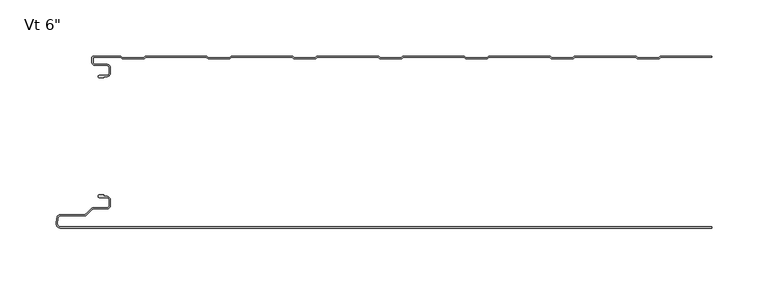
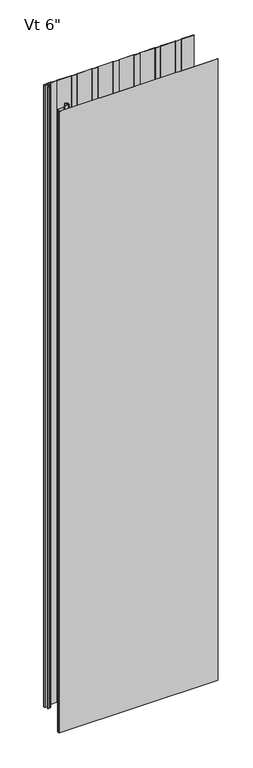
"""IFC4 building model written with IfcOpenShell, lengths in millimetres: plate geometry."""

from ifc_helpers import new_model, si_unit, point, frame, frame_2d, origin, origin_with_axes, place, context, project, spatial, polyline, circle_curve, trimmed, segment, composite_curve, outline, extrude, source, transform, mapped, element, save
from ifc_brep_helpers import plane_surface, cylinder_surface, revolved_surface, advanced_brep


def plate_3e0a3dc7(model_context):
    return source(origin(), model_context, "Body", "SolidModel", [
        advanced_brep(
        [(-270.768691, -17.0015159, 2400.0), (-271.7686883, -18.0015191, 2400.0), (-270.768691, -19.0015105, 2400.0), (-266.7684874, -19.0015105, 2400.0), (-266.7684874, -18.0015159, 2400.0), (-264.0762776, -18.0015159, 2400.0), (-260.7762819, -14.7015202, 2400.0), (-260.7762819, -10.301529, 2400.0), (-264.0762774, -7.0015335, 2400.0), (-274.4962563, -7.0015335, 2400.0), (-276.2662505, -5.2315393, 2400.0), (-276.2662505, -0.9999916, 2400.0), (-251.7659738, -0.9999916, 2400.0), (-250.3803312, -2.2002307, 2400.0), (-231.0051649, -2.2002307, 2400.0), (-229.619532, -1.0, 2400.0), (-175.5661166, -1.0, 2400.0), (-174.1804836, -2.2002307, 2400.0), (-154.8053173, -2.2002307, 2400.0), (-153.4196844, -1.0, 2400.0), (-99.366269, -1.0, 2400.0), (-97.980636, -2.2002307, 2400.0), (-78.6054697, -2.2002307, 2400.0), (-77.2198368, -1.0, 2400.0), (-23.1664214, -1.0, 2400.0), (-21.7807884, -2.2002307, 2400.0), (-2.4056221, -2.2002307, 2400.0), (-1.0199892, -1.0, 2400.0), (53.0334262, -1.0, 2400.0), (54.4190592, -2.2002307, 2400.0), (73.7942255, -2.2002307, 2400.0), (75.1798584, -1.0, 2400.0), (129.2332738, -1.0, 2400.0), (130.6189068, -2.2002307, 2400.0), (149.9940731, -2.2002307, 2400.0), (151.379706, -1.0, 2400.0), (205.4331214, -1.0, 2400.0), (206.8187544, -2.2002307, 2400.0), (226.1939207, -2.2002307, 2400.0), (227.5795536, -1.0, 2400.0), (272.7999998, -1.0, 2400.0), (272.7999998, 0.0, 2400.0), (227.7287048, 0.0, 2400.0), (226.8120879, -0.3417885, 2400.0), (225.8210403, -1.2002307, 2400.0), (207.1916348, -1.2002307, 2400.0), (206.2005872, -0.3417885, 2400.0), (205.2839703, 0.0, 2400.0), (151.5288572, 0.0, 2400.0), (150.6122403, -0.3417885, 2400.0), (149.6211927, -1.2002307, 2400.0), (130.9917872, -1.2002307, 2400.0), (130.0007396, -0.3417885, 2400.0), (129.0841227, 0.0, 2400.0), (75.3290096, 0.0, 2400.0), (74.4123927, -0.3417885, 2400.0), (73.4213451, -1.2002307, 2400.0), (54.7919396, -1.2002307, 2400.0), (53.800892, -0.3417885, 2400.0), (52.8842751, 0.0, 2400.0), (-0.870838, 0.0, 2400.0), (-1.7874549, -0.3417885, 2400.0), (-2.7785025, -1.2002307, 2400.0), (-21.407908, -1.2002307, 2400.0), (-22.3989556, -0.3417885, 2400.0), (-23.3155725, 0.0, 2400.0), (-77.0706856, 0.0, 2400.0), (-77.9873025, -0.3417885, 2400.0), (-78.9783501, -1.2002307, 2400.0), (-97.6077556, -1.2002307, 2400.0), (-98.5988032, -0.3417885, 2400.0), (-99.5154201, 0.0, 2400.0), (-153.2705332, 0.0, 2400.0), (-154.1871501, -0.3417885, 2400.0), (-155.1781977, -1.2002307, 2400.0), (-173.8076032, -1.2002307, 2400.0), (-174.7986508, -0.3417885, 2400.0), (-175.7152677, 0.0, 2400.0), (-229.4703808, 0.0, 2400.0), (-230.3869977, -0.3417885, 2400.0), (-231.3780453, -1.2002307, 2400.0), (-250.0074508, -1.2002307, 2400.0), (-250.9984984, -0.3417885, 2400.0), (-251.9152067, 0.0, 2400.0), (-275.8662543, 8.4e-06, 2400.0), (-277.2662505, -1.3999878, 2400.0), (-277.2662505, -5.2315393, 2400.0), (-274.4962563, -8.0015335, 2400.0), (-264.0762774, -8.0015335, 2400.0), (-261.7762819, -10.301529, 2400.0), (-261.7762819, -14.7015202, 2400.0), (-264.0762776, -17.0015159, 2400.0), (-270.768691, -17.0015159, 0.0), (-264.0762776, -17.0015159, 0.0), (-261.7762819, -14.7015202, 0.0), (-261.7762819, -10.301529, 0.0), (-264.0762774, -8.0015335, 0.0), (-274.4962563, -8.0015335, 0.0), (-277.2662505, -5.2315393, 0.0), (-277.2662505, -1.3999878, 0.0), (-275.8662543, 8.4e-06, 0.0), (-251.9151153, 8.4e-06, 0.0), (-250.9984984, -0.3417885, 0.0), (-250.0074508, -1.2002307, 0.0), (-231.3780453, -1.2002307, 0.0), (-230.3869977, -0.3417885, 0.0), (-229.4703808, 0.0, 0.0), (-175.7152677, 0.0, 0.0), (-174.7986508, -0.3417885, 0.0), (-173.8076032, -1.2002307, 0.0), (-155.1781977, -1.2002307, 0.0), (-154.1871501, -0.3417885, 0.0), (-153.2705332, 0.0, 0.0), (-99.5154201, 0.0, 0.0), (-98.5988032, -0.3417885, 0.0), (-97.6077556, -1.2002307, 0.0), (-78.9783501, -1.2002307, 0.0), (-77.9873025, -0.3417885, 0.0), (-77.0706856, 0.0, 0.0), (-23.3155725, 0.0, 0.0), (-22.3989556, -0.3417885, 0.0), (-21.407908, -1.2002307, 0.0), (-2.7785025, -1.2002307, 0.0), (-1.7874549, -0.3417885, 0.0), (-0.870838, 0.0, 0.0), (52.8842751, 0.0, 0.0), (53.800892, -0.3417885, 0.0), (54.7919396, -1.2002307, 0.0), (73.4213451, -1.2002307, 0.0), (74.4123927, -0.3417885, 0.0), (75.3290096, 0.0, 0.0), (129.0841227, 0.0, 0.0), (130.0007396, -0.3417885, 0.0), (130.9917872, -1.2002307, 0.0), (149.6211927, -1.2002307, 0.0), (150.6122403, -0.3417885, 0.0), (151.5288572, 0.0, 0.0), (205.2839703, 0.0, 0.0), (206.2005872, -0.3417885, 0.0), (207.1916348, -1.2002307, 0.0), (225.8210403, -1.2002307, 0.0), (226.8120879, -0.3417885, 0.0), (227.7287048, 0.0, 0.0), (272.7999998, 0.0, 0.0), (272.7999998, -1.0, 0.0), (227.5795536, -1.0, 0.0), (226.1939207, -2.2002307, 0.0), (206.8187544, -2.2002307, 0.0), (205.4331214, -1.0, 0.0), (151.379706, -1.0, 0.0), (149.9940731, -2.2002307, 0.0), (130.6189068, -2.2002307, 0.0), (129.2332738, -1.0, 0.0), (75.1798584, -1.0, 0.0), (73.7942255, -2.2002307, 0.0), (54.4190592, -2.2002307, 0.0), (53.0334262, -1.0, 0.0), (-1.0199892, -1.0, 0.0), (-2.4056221, -2.2002307, 0.0), (-21.7807884, -2.2002307, 0.0), (-23.1664214, -1.0, 0.0), (-77.2198368, -1.0, 0.0), (-78.6054697, -2.2002307, 0.0), (-97.980636, -2.2002307, 0.0), (-99.366269, -1.0, 0.0), (-153.4196844, -1.0, 0.0), (-154.8053173, -2.2002307, 0.0), (-174.1804836, -2.2002307, 0.0), (-175.5661166, -1.0, 0.0), (-229.619532, -1.0, 0.0), (-231.0051649, -2.2002307, 0.0), (-250.3803312, -2.2002307, 0.0), (-251.7659738, -0.9999916, 0.0), (-276.2662505, -0.9999916, 0.0), (-276.2662505, -5.2315393, 0.0), (-274.4962563, -7.0015335, 0.0), (-264.0762774, -7.0015335, 0.0), (-260.7762819, -10.301529, 0.0), (-260.7762819, -14.7015202, 0.0), (-264.0762776, -18.0015159, 0.0), (-266.7684874, -18.0015159, 0.0), (-266.7684874, -19.0015105, 0.0), (-270.768691, -19.0015105, 0.0), (-271.7686882, -18.0015192, 0.0)],
        [
            (0, 1, circle_curve(frame((-270.768691, -18.0015132, 2400.0), z_axis=(0.0, 0.0, 1.0), x_axis=(1.0, 0.0, 0.0)), 0.9999973)),
            (1, 2, circle_curve(frame((-270.768691, -18.0015133, 2400.0), z_axis=(0.0, 0.0, 1.0), x_axis=(1.0, 0.0, 0.0)), 0.9999972)),
            (2, 3),
            (3, 4),
            (4, 5),
            (5, 6, circle_curve(frame((-264.0762776, -14.7015202, 2400.0), z_axis=(0.0, 0.0, 1.0), x_axis=(1.0, 0.0, 0.0)), 3.2999957)),
            (6, 7),
            (7, 8, circle_curve(frame((-264.0762774, -10.301529, 2400.0), z_axis=(0.0, 0.0, 1.0), x_axis=(1.0, 0.0, 0.0)), 3.2999955)),
            (8, 9),
            (9, 10, circle_curve(frame((-274.4962563, -5.2315393, 2400.0), z_axis=(0.0, 0.0, -1.0), x_axis=(1.0, 0.0, 0.0)), 1.7699942)),
            (10, 11),
            (11, 12),
            (12, 13),
            (13, 14),
            (14, 15),
            (15, 16),
            (16, 17),
            (17, 18),
            (18, 19),
            (19, 20),
            (20, 21),
            (21, 22),
            (22, 23),
            (23, 24),
            (24, 25),
            (25, 26),
            (26, 27),
            (27, 28),
            (28, 29),
            (29, 30),
            (30, 31),
            (31, 32),
            (32, 33),
            (33, 34),
            (34, 35),
            (35, 36),
            (36, 37),
            (37, 38),
            (38, 39),
            (39, 40),
            (40, 41),
            (41, 42),
            (42, 43, circle_curve(frame((227.7287048, -1.3999972, 2400.0), z_axis=(0.0, 0.0, 1.0), x_axis=(1.0, 0.0, 0.0)), 1.3999972)),
            (43, 44),
            (44, 45),
            (45, 46),
            (46, 47, circle_curve(frame((205.2839703, -1.3999972, 2400.0), z_axis=(0.0, 0.0, 1.0), x_axis=(1.0, 0.0, 0.0)), 1.3999972)),
            (47, 48),
            (48, 49, circle_curve(frame((151.5288572, -1.3999972, 2400.0), z_axis=(0.0, 0.0, 1.0), x_axis=(1.0, 0.0, 0.0)), 1.3999972)),
            (49, 50),
            (50, 51),
            (51, 52),
            (52, 53, circle_curve(frame((129.0841227, -1.3999972, 2400.0), z_axis=(0.0, 0.0, 1.0), x_axis=(1.0, 0.0, 0.0)), 1.3999972)),
            (53, 54),
            (54, 55, circle_curve(frame((75.3290096, -1.3999972, 2400.0), z_axis=(0.0, 0.0, 1.0), x_axis=(1.0, 0.0, 0.0)), 1.3999972)),
            (55, 56),
            (56, 57),
            (57, 58),
            (58, 59, circle_curve(frame((52.8842751, -1.3999972, 2400.0), z_axis=(0.0, 0.0, 1.0), x_axis=(1.0, 0.0, 0.0)), 1.3999972)),
            (59, 60),
            (60, 61, circle_curve(frame((-0.870838, -1.3999972, 2400.0), z_axis=(0.0, 0.0, 1.0), x_axis=(1.0, 0.0, 0.0)), 1.3999972)),
            (61, 62),
            (62, 63),
            (63, 64),
            (64, 65, circle_curve(frame((-23.3155725, -1.3999972, 2400.0), z_axis=(0.0, 0.0, 1.0), x_axis=(1.0, 0.0, 0.0)), 1.3999972)),
            (65, 66),
            (66, 67, circle_curve(frame((-77.0706856, -1.3999972, 2400.0), z_axis=(0.0, 0.0, 1.0), x_axis=(1.0, 0.0, 0.0)), 1.3999972)),
            (67, 68),
            (68, 69),
            (69, 70),
            (70, 71, circle_curve(frame((-99.5154201, -1.3999972, 2400.0), z_axis=(0.0, 0.0, 1.0), x_axis=(1.0, 0.0, 0.0)), 1.3999972)),
            (71, 72),
            (72, 73, circle_curve(frame((-153.2705332, -1.3999972, 2400.0), z_axis=(0.0, 0.0, 1.0), x_axis=(1.0, 0.0, 0.0)), 1.3999972)),
            (73, 74),
            (74, 75),
            (75, 76),
            (76, 77, circle_curve(frame((-175.7152677, -1.3999972, 2400.0), z_axis=(0.0, 0.0, 1.0), x_axis=(1.0, 0.0, 0.0)), 1.3999972)),
            (77, 78),
            (78, 79, circle_curve(frame((-229.4703808, -1.3999972, 2400.0), z_axis=(0.0, 0.0, 1.0), x_axis=(1.0, 0.0, 0.0)), 1.3999972)),
            (79, 80),
            (80, 81),
            (81, 82),
            (82, 83, circle_curve(frame((-251.9151153, -1.3999972, 2400.0), z_axis=(0.0, 0.0, 1.0), x_axis=(1.0, 0.0, 0.0)), 1.3999972)),
            (83, 84),
            (84, 85, circle_curve(frame((-275.8662543, -1.3999878, 2400.0), z_axis=(0.0, 0.0, 1.0), x_axis=(1.0, 0.0, 0.0)), 1.3999962)),
            (85, 86),
            (86, 87, circle_curve(frame((-274.4962563, -5.2315393, 2400.0), z_axis=(0.0, 0.0, 1.0), x_axis=(1.0, 0.0, 0.0)), 2.7699942)),
            (87, 88),
            (88, 89, circle_curve(frame((-264.0762774, -10.301529, 2400.0), z_axis=(0.0, 0.0, -1.0), x_axis=(1.0, 0.0, 0.0)), 2.2999955)),
            (89, 90),
            (90, 91, circle_curve(frame((-264.0762776, -14.7015202, 2400.0), z_axis=(0.0, 0.0, -1.0), x_axis=(1.0, 0.0, 0.0)), 2.2999957)),
            (91, 0),
            (92, 93),
            (93, 94, circle_curve(frame((-264.0762776, -14.7015202, 0.0), z_axis=(0.0, 0.0, 1.0), x_axis=(1.0, 0.0, 0.0)), 2.2999957)),
            (94, 95),
            (95, 96, circle_curve(frame((-264.0762774, -10.301529, 0.0), z_axis=(0.0, 0.0, 1.0), x_axis=(1.0, 0.0, 0.0)), 2.2999955)),
            (96, 97),
            (97, 98, circle_curve(frame((-274.4962563, -5.2315393, 0.0), z_axis=(0.0, 0.0, -1.0), x_axis=(1.0, 0.0, 0.0)), 2.7699942)),
            (98, 99),
            (99, 100, circle_curve(frame((-275.8662543, -1.3999878, 0.0), z_axis=(0.0, 0.0, -1.0), x_axis=(1.0, 0.0, 0.0)), 1.3999962)),
            (100, 101),
            (101, 102, circle_curve(frame((-251.9151153, -1.3999972, 0.0), z_axis=(0.0, 0.0, -1.0), x_axis=(1.0, 0.0, 0.0)), 1.3999972)),
            (102, 103),
            (103, 104),
            (104, 105),
            (105, 106, circle_curve(frame((-229.4703808, -1.3999972, 0.0), z_axis=(0.0, 0.0, -1.0), x_axis=(1.0, 0.0, 0.0)), 1.3999972)),
            (106, 107),
            (107, 108, circle_curve(frame((-175.7152677, -1.3999972, 0.0), z_axis=(0.0, 0.0, -1.0), x_axis=(1.0, 0.0, 0.0)), 1.3999972)),
            (108, 109),
            (109, 110),
            (110, 111),
            (111, 112, circle_curve(frame((-153.2705332, -1.3999972, 0.0), z_axis=(0.0, 0.0, -1.0), x_axis=(1.0, 0.0, 0.0)), 1.3999972)),
            (112, 113),
            (113, 114, circle_curve(frame((-99.5154201, -1.3999972, 0.0), z_axis=(0.0, 0.0, -1.0), x_axis=(1.0, 0.0, 0.0)), 1.3999972)),
            (114, 115),
            (115, 116),
            (116, 117),
            (117, 118, circle_curve(frame((-77.0706856, -1.3999972, 0.0), z_axis=(0.0, 0.0, -1.0), x_axis=(1.0, 0.0, 0.0)), 1.3999972)),
            (118, 119),
            (119, 120, circle_curve(frame((-23.3155725, -1.3999972, 0.0), z_axis=(0.0, 0.0, -1.0), x_axis=(1.0, 0.0, 0.0)), 1.3999972)),
            (120, 121),
            (121, 122),
            (122, 123),
            (123, 124, circle_curve(frame((-0.870838, -1.3999972, 0.0), z_axis=(0.0, 0.0, -1.0), x_axis=(1.0, 0.0, 0.0)), 1.3999972)),
            (124, 125),
            (125, 126, circle_curve(frame((52.8842751, -1.3999972, 0.0), z_axis=(0.0, 0.0, -1.0), x_axis=(1.0, 0.0, 0.0)), 1.3999972)),
            (126, 127),
            (127, 128),
            (128, 129),
            (129, 130, circle_curve(frame((75.3290096, -1.3999972, 0.0), z_axis=(0.0, 0.0, -1.0), x_axis=(1.0, 0.0, 0.0)), 1.3999972)),
            (130, 131),
            (131, 132, circle_curve(frame((129.0841227, -1.3999972, 0.0), z_axis=(0.0, 0.0, -1.0), x_axis=(1.0, 0.0, 0.0)), 1.3999972)),
            (132, 133),
            (133, 134),
            (134, 135),
            (135, 136, circle_curve(frame((151.5288572, -1.3999972, 0.0), z_axis=(0.0, 0.0, -1.0), x_axis=(1.0, 0.0, 0.0)), 1.3999972)),
            (136, 137),
            (137, 138, circle_curve(frame((205.2839703, -1.3999972, 0.0), z_axis=(0.0, 0.0, -1.0), x_axis=(1.0, 0.0, 0.0)), 1.3999972)),
            (138, 139),
            (139, 140),
            (140, 141),
            (141, 142, circle_curve(frame((227.7287048, -1.3999972, 0.0), z_axis=(0.0, 0.0, -1.0), x_axis=(1.0, 0.0, 0.0)), 1.3999972)),
            (142, 143),
            (143, 144),
            (144, 145),
            (145, 146),
            (146, 147),
            (147, 148),
            (148, 149),
            (149, 150),
            (150, 151),
            (151, 152),
            (152, 153),
            (153, 154),
            (154, 155),
            (155, 156),
            (156, 157),
            (157, 158),
            (158, 159),
            (159, 160),
            (160, 161),
            (161, 162),
            (162, 163),
            (163, 164),
            (164, 165),
            (165, 166),
            (166, 167),
            (167, 168),
            (168, 169),
            (169, 170),
            (170, 171),
            (171, 172),
            (172, 173),
            (173, 174),
            (174, 175, circle_curve(frame((-274.4962563, -5.2315393, 0.0), z_axis=(0.0, 0.0, 1.0), x_axis=(1.0, 0.0, 0.0)), 1.7699942)),
            (175, 176),
            (176, 177, circle_curve(frame((-264.0762774, -10.301529, 0.0), z_axis=(0.0, 0.0, -1.0), x_axis=(1.0, 0.0, 0.0)), 3.2999955)),
            (177, 178),
            (178, 179, circle_curve(frame((-264.0762776, -14.7015202, 0.0), z_axis=(0.0, 0.0, -1.0), x_axis=(1.0, 0.0, 0.0)), 3.2999957)),
            (179, 180),
            (180, 181),
            (181, 182),
            (182, 183, circle_curve(frame((-270.768691, -18.0015133, 0.0), z_axis=(0.0, 0.0, -1.0), x_axis=(1.0, 0.0, 0.0)), 0.9999972)),
            (183, 92, circle_curve(frame((-270.768691, -18.0015132, 0.0), z_axis=(0.0, 0.0, -1.0), x_axis=(1.0, 0.0, 0.0)), 0.9999973)),
            (91, 93),
            (92, 0),
            (90, 94),
            (89, 95),
            (88, 96),
            (87, 97),
            (86, 98),
            (85, 99),
            (84, 100),
            (83, 101),
            (10, 174),
            (173, 11),
            (9, 175),
            (8, 176),
            (7, 177),
            (6, 178),
            (5, 179),
            (4, 180),
            (3, 181),
            (2, 182),
            (1, 183),
            (40, 144),
            (143, 41),
            (82, 102),
            (81, 103),
            (80, 104),
            (79, 105),
            (78, 106),
            (77, 107),
            (76, 108),
            (75, 109),
            (74, 110),
            (73, 111),
            (72, 112),
            (71, 113),
            (70, 114),
            (69, 115),
            (68, 116),
            (67, 117),
            (66, 118),
            (65, 119),
            (64, 120),
            (63, 121),
            (62, 122),
            (61, 123),
            (60, 124),
            (59, 125),
            (58, 126),
            (57, 127),
            (56, 128),
            (55, 129),
            (54, 130),
            (53, 131),
            (52, 132),
            (51, 133),
            (50, 134),
            (49, 135),
            (48, 136),
            (47, 137),
            (46, 138),
            (45, 139),
            (44, 140),
            (43, 141),
            (42, 142),
            (39, 145),
            (38, 146),
            (37, 147),
            (36, 148),
            (35, 149),
            (34, 150),
            (33, 151),
            (32, 152),
            (31, 153),
            (30, 154),
            (29, 155),
            (28, 156),
            (27, 157),
            (26, 158),
            (25, 159),
            (24, 160),
            (23, 161),
            (22, 162),
            (21, 163),
            (20, 164),
            (19, 165),
            (18, 166),
            (17, 167),
            (16, 168),
            (15, 169),
            (14, 170),
            (13, 171),
            (12, 172),
        ],
        [
            plane_surface(frame((184.4000002, 0.0, 2400.0), z_axis=(0.0, 0.0, 1.0), x_axis=(0.0, 1.0, 0.0))),
            plane_surface(frame((184.4000002, 0.0, 0.0), z_axis=(0.0, 0.0, -1.0), x_axis=(0.0, 1.0, 0.0))),
            plane_surface(frame((-270.768691, -17.0015159, 2400.0), z_axis=(0.0, 1.0, 0.0), x_axis=(0.0, 0.0, -1.0))),
            revolved_surface(polyline([(-261.7762819, -14.7015202, 0.0), (-261.7762819, -14.7015202, 2400.0)]), (-264.0762776, -14.7015202, 2400.0), (0.0, 0.0, -1.0)),
            plane_surface(frame((-261.7762819, -14.7015202, 2400.0), z_axis=(-1.0, 0.0, 0.0), x_axis=(0.0, 0.0, -1.0))),
            revolved_surface(polyline([(-261.77628189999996, -10.301529, 0.0), (-261.77628189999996, -10.301529, 2400.0)]), (-264.0762774, -10.301529, 2400.0), (0.0, 0.0, -1.0)),
            plane_surface(frame((-264.0762774, -8.0015335, 2400.0), z_axis=(0.0, -1.0, 0.0), x_axis=(0.0, 0.0, -1.0))),
            cylinder_surface(frame((-274.4962563, -5.2315393, 2400.0), z_axis=(0.0, 0.0, 1.0), x_axis=(1.0, 0.0, 0.0)), 2.7699942),
            plane_surface(frame((-277.2662505, -5.2315393, 2400.0), z_axis=(-1.0, 0.0, 0.0), x_axis=(0.0, 0.0, -1.0))),
            cylinder_surface(frame((-275.8662543, -1.3999878, 2400.0), z_axis=(0.0, 0.0, 1.0), x_axis=(1.0, 0.0, 0.0)), 1.3999962),
            plane_surface(frame((-275.8662543, 8.4e-06, 2400.0), z_axis=(0.0, 1.0, 0.0), x_axis=(0.0, 0.0, -1.0))),
            plane_surface(frame((-276.2662505, -0.9999916, 2400.0), z_axis=(1.0, 0.0, 0.0), x_axis=(0.0, 0.0, -1.0))),
            revolved_surface(polyline([(-272.72626210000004, -5.2315393, 0.0), (-272.72626210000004, -5.2315393, 2400.0)]), (-274.4962563, -5.2315393, 2400.0), (0.0, 0.0, -1.0)),
            plane_surface(frame((-274.4962563, -7.0015335, 2400.0), z_axis=(0.0, 1.0, 0.0), x_axis=(0.0, 0.0, -1.0))),
            cylinder_surface(frame((-264.0762774, -10.301529, 2400.0), z_axis=(0.0, 0.0, 1.0), x_axis=(1.0, 0.0, 0.0)), 3.2999955),
            plane_surface(frame((-260.7762819, -10.301529, 2400.0), z_axis=(1.0, 0.0, 0.0), x_axis=(0.0, 0.0, -1.0))),
            cylinder_surface(frame((-264.0762776, -14.7015202, 2400.0), z_axis=(0.0, 0.0, 1.0), x_axis=(1.0, 0.0, 0.0)), 3.2999957),
            plane_surface(frame((-264.0762776, -18.0015159, 2400.0), z_axis=(0.0, -1.0, 0.0), x_axis=(0.0, 0.0, -1.0))),
            plane_surface(frame((-266.7684874, -18.0015159, 2400.0), z_axis=(1.0, 0.0, 0.0), x_axis=(0.0, 0.0, -1.0))),
            plane_surface(frame((-266.7684874, -19.0015105, 2400.0), z_axis=(0.0, -1.0, 0.0), x_axis=(0.0, 0.0, -1.0))),
            cylinder_surface(frame((-270.768691, -18.0015133, 2400.0), z_axis=(0.0, 0.0, 1.0), x_axis=(1.0, 0.0, 0.0)), 0.9999972),
            cylinder_surface(frame((-270.768691, -18.0015132, 2400.0), z_axis=(0.0, 0.0, 1.0), x_axis=(1.0, 0.0, 0.0)), 0.9999973),
            plane_surface(frame((272.7999998, -162.4, 2400.0), z_axis=(1.0, 0.0, 0.0), x_axis=(0.0, 0.0, -1.0))),
            cylinder_surface(frame((-251.9151153, -1.3999972, 2400.0), z_axis=(0.0, 0.0, 1.0), x_axis=(1.0, 0.0, 0.0)), 1.3999972),
            plane_surface(frame((-250.9984984, -0.3417885, 2400.0), z_axis=(0.6547276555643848, 0.7558648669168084, 0.0), x_axis=(0.0, 0.0, -1.0))),
            plane_surface(frame((-240.6927481, -1.2002307, 2400.0), z_axis=(0.0, 1.0, 0.0), x_axis=(0.0, 0.0, -1.0))),
            plane_surface(frame((-231.3780453, -1.2002307, 2400.0), z_axis=(-0.6547276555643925, 0.7558648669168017, 0.0), x_axis=(0.0, 0.0, -1.0))),
            cylinder_surface(frame((-229.4703808, -1.3999972, 2400.0), z_axis=(0.0, 0.0, 1.0), x_axis=(1.0, 0.0, 0.0)), 1.3999972),
            plane_surface(frame((-229.4703808, 0.0, 2400.0), z_axis=(0.0, 1.0, 0.0), x_axis=(0.0, 0.0, -1.0))),
            cylinder_surface(frame((-175.7152677, -1.3999972, 2400.0), z_axis=(0.0, 0.0, 1.0), x_axis=(1.0, 0.0, 0.0)), 1.3999972),
            plane_surface(frame((-174.7986508, -0.3417885, 2400.0), z_axis=(0.6547276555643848, 0.7558648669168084, 0.0), x_axis=(0.0, 0.0, -1.0))),
            plane_surface(frame((-164.4929005, -1.2002307, 2400.0), z_axis=(0.0, 1.0, 0.0), x_axis=(0.0, 0.0, -1.0))),
            plane_surface(frame((-155.1781977, -1.2002307, 2400.0), z_axis=(-0.6547276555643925, 0.7558648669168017, 0.0), x_axis=(0.0, 0.0, -1.0))),
            cylinder_surface(frame((-153.2705332, -1.3999972, 2400.0), z_axis=(0.0, 0.0, 1.0), x_axis=(1.0, 0.0, 0.0)), 1.3999972),
            plane_surface(frame((-153.2705332, 0.0, 2400.0), z_axis=(0.0, 1.0, 0.0), x_axis=(0.0, 0.0, -1.0))),
            cylinder_surface(frame((-99.5154201, -1.3999972, 2400.0), z_axis=(0.0, 0.0, 1.0), x_axis=(1.0, 0.0, 0.0)), 1.3999972),
            plane_surface(frame((-98.5988032, -0.3417885, 2400.0), z_axis=(0.6547276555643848, 0.7558648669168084, 0.0), x_axis=(0.0, 0.0, -1.0))),
            plane_surface(frame((-88.2930529, -1.2002307, 2400.0), z_axis=(0.0, 1.0, 0.0), x_axis=(0.0, 0.0, -1.0))),
            plane_surface(frame((-78.9783501, -1.2002307, 2400.0), z_axis=(-0.6547276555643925, 0.7558648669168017, 0.0), x_axis=(0.0, 0.0, -1.0))),
            cylinder_surface(frame((-77.0706856, -1.3999972, 2400.0), z_axis=(0.0, 0.0, 1.0), x_axis=(1.0, 0.0, 0.0)), 1.3999972),
            plane_surface(frame((-77.0706856, 0.0, 2400.0), z_axis=(0.0, 1.0, 0.0), x_axis=(0.0, 0.0, -1.0))),
            cylinder_surface(frame((-23.3155725, -1.3999972, 2400.0), z_axis=(0.0, 0.0, 1.0), x_axis=(1.0, 0.0, 0.0)), 1.3999972),
            plane_surface(frame((-22.3989556, -0.3417885, 2400.0), z_axis=(0.6547276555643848, 0.7558648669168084, 0.0), x_axis=(0.0, 0.0, -1.0))),
            plane_surface(frame((-12.0932053, -1.2002307, 2400.0), z_axis=(0.0, 1.0, 0.0), x_axis=(0.0, 0.0, -1.0))),
            plane_surface(frame((-2.7785025, -1.2002307, 2400.0), z_axis=(-0.6547276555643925, 0.7558648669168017, 0.0), x_axis=(0.0, 0.0, -1.0))),
            cylinder_surface(frame((-0.870838, -1.3999972, 2400.0), z_axis=(0.0, 0.0, 1.0), x_axis=(1.0, 0.0, 0.0)), 1.3999972),
            plane_surface(frame((-0.870838, 0.0, 2400.0), z_axis=(0.0, 1.0, 0.0), x_axis=(0.0, 0.0, -1.0))),
            cylinder_surface(frame((52.8842751, -1.3999972, 2400.0), z_axis=(0.0, 0.0, 1.0), x_axis=(1.0, 0.0, 0.0)), 1.3999972),
            plane_surface(frame((53.800892, -0.3417885, 2400.0), z_axis=(0.6547276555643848, 0.7558648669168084, 0.0), x_axis=(0.0, 0.0, -1.0))),
            plane_surface(frame((64.1066423, -1.2002307, 2400.0), z_axis=(0.0, 1.0, 0.0), x_axis=(0.0, 0.0, -1.0))),
            plane_surface(frame((73.4213451, -1.2002307, 2400.0), z_axis=(-0.6547276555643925, 0.7558648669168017, 0.0), x_axis=(0.0, 0.0, -1.0))),
            cylinder_surface(frame((75.3290096, -1.3999972, 2400.0), z_axis=(0.0, 0.0, 1.0), x_axis=(1.0, 0.0, 0.0)), 1.3999972),
            plane_surface(frame((75.3290096, 0.0, 2400.0), z_axis=(0.0, 1.0, 0.0), x_axis=(0.0, 0.0, -1.0))),
            cylinder_surface(frame((129.0841227, -1.3999972, 2400.0), z_axis=(0.0, 0.0, 1.0), x_axis=(1.0, 0.0, 0.0)), 1.3999972),
            plane_surface(frame((130.0007396, -0.3417885, 2400.0), z_axis=(0.6547276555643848, 0.7558648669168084, 0.0), x_axis=(0.0, 0.0, -1.0))),
            plane_surface(frame((140.3064899, -1.2002307, 2400.0), z_axis=(0.0, 1.0, 0.0), x_axis=(0.0, 0.0, -1.0))),
            plane_surface(frame((149.6211927, -1.2002307, 2400.0), z_axis=(-0.6547276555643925, 0.7558648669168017, 0.0), x_axis=(0.0, 0.0, -1.0))),
            cylinder_surface(frame((151.5288572, -1.3999972, 2400.0), z_axis=(0.0, 0.0, 1.0), x_axis=(1.0, 0.0, 0.0)), 1.3999972),
            plane_surface(frame((151.5288572, 0.0, 2400.0), z_axis=(0.0, 1.0, 0.0), x_axis=(0.0, 0.0, -1.0))),
            cylinder_surface(frame((205.2839703, -1.3999972, 2400.0), z_axis=(0.0, 0.0, 1.0), x_axis=(1.0, 0.0, 0.0)), 1.3999972),
            plane_surface(frame((206.2005872, -0.3417885, 2400.0), z_axis=(0.6547276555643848, 0.7558648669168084, 0.0), x_axis=(0.0, 0.0, -1.0))),
            plane_surface(frame((216.5063375, -1.2002307, 2400.0), z_axis=(0.0, 1.0, 0.0), x_axis=(0.0, 0.0, -1.0))),
            plane_surface(frame((225.8210403, -1.2002307, 2400.0), z_axis=(-0.6547276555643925, 0.7558648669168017, 0.0), x_axis=(0.0, 0.0, -1.0))),
            cylinder_surface(frame((227.7287048, -1.3999972, 2400.0), z_axis=(0.0, 0.0, 1.0), x_axis=(1.0, 0.0, 0.0)), 1.3999972),
            plane_surface(frame((227.7287048, 0.0, 2400.0), z_axis=(0.0, 1.0, 0.0), x_axis=(0.0, 0.0, -1.0))),
            plane_surface(frame((281.632969, -1.0, 2400.0), z_axis=(0.0, -1.0, 0.0), x_axis=(0.0, 0.0, -1.0))),
            plane_surface(frame((227.5795536, -1.0, 2400.0), z_axis=(0.6547276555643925, -0.7558648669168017, 0.0), x_axis=(0.0, 0.0, -1.0))),
            plane_surface(frame((226.1939207, -2.2002307, 2400.0), z_axis=(0.0, -1.0, 0.0), x_axis=(0.0, 0.0, -1.0))),
            plane_surface(frame((206.8187544, -2.2002307, 2400.0), z_axis=(-0.6547276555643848, -0.7558648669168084, 0.0), x_axis=(0.0, 0.0, -1.0))),
            plane_surface(frame((205.4331214, -1.0, 2400.0), z_axis=(0.0, -1.0, 0.0), x_axis=(0.0, 0.0, -1.0))),
            plane_surface(frame((151.379706, -1.0, 2400.0), z_axis=(0.6547276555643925, -0.7558648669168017, 0.0), x_axis=(0.0, 0.0, -1.0))),
            plane_surface(frame((149.9940731, -2.2002307, 2400.0), z_axis=(0.0, -1.0, 0.0), x_axis=(0.0, 0.0, -1.0))),
            plane_surface(frame((130.6189068, -2.2002307, 2400.0), z_axis=(-0.6547276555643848, -0.7558648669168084, 0.0), x_axis=(0.0, 0.0, -1.0))),
            plane_surface(frame((129.2332738, -1.0, 2400.0), z_axis=(0.0, -1.0, 0.0), x_axis=(0.0, 0.0, -1.0))),
            plane_surface(frame((75.1798584, -1.0, 2400.0), z_axis=(0.6547276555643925, -0.7558648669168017, 0.0), x_axis=(0.0, 0.0, -1.0))),
            plane_surface(frame((73.7942255, -2.2002307, 2400.0), z_axis=(0.0, -1.0, 0.0), x_axis=(0.0, 0.0, -1.0))),
            plane_surface(frame((54.4190592, -2.2002307, 2400.0), z_axis=(-0.6547276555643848, -0.7558648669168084, 0.0), x_axis=(0.0, 0.0, -1.0))),
            plane_surface(frame((53.0334262, -1.0, 2400.0), z_axis=(0.0, -1.0, 0.0), x_axis=(0.0, 0.0, -1.0))),
            plane_surface(frame((-1.0199892, -1.0, 2400.0), z_axis=(0.6547276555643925, -0.7558648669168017, 0.0), x_axis=(0.0, 0.0, -1.0))),
            plane_surface(frame((-2.4056221, -2.2002307, 2400.0), z_axis=(0.0, -1.0, 0.0), x_axis=(0.0, 0.0, -1.0))),
            plane_surface(frame((-21.7807884, -2.2002307, 2400.0), z_axis=(-0.6547276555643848, -0.7558648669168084, 0.0), x_axis=(0.0, 0.0, -1.0))),
            plane_surface(frame((-23.1664214, -1.0, 2400.0), z_axis=(0.0, -1.0, 0.0), x_axis=(0.0, 0.0, -1.0))),
            plane_surface(frame((-77.2198368, -1.0, 2400.0), z_axis=(0.6547276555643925, -0.7558648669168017, 0.0), x_axis=(0.0, 0.0, -1.0))),
            plane_surface(frame((-78.6054697, -2.2002307, 2400.0), z_axis=(0.0, -1.0, 0.0), x_axis=(0.0, 0.0, -1.0))),
            plane_surface(frame((-97.980636, -2.2002307, 2400.0), z_axis=(-0.6547276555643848, -0.7558648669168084, 0.0), x_axis=(0.0, 0.0, -1.0))),
            plane_surface(frame((-99.366269, -1.0, 2400.0), z_axis=(0.0, -1.0, 0.0), x_axis=(0.0, 0.0, -1.0))),
            plane_surface(frame((-153.4196844, -1.0, 2400.0), z_axis=(0.6547276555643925, -0.7558648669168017, 0.0), x_axis=(0.0, 0.0, -1.0))),
            plane_surface(frame((-154.8053173, -2.2002307, 2400.0), z_axis=(0.0, -1.0, 0.0), x_axis=(0.0, 0.0, -1.0))),
            plane_surface(frame((-174.1804836, -2.2002307, 2400.0), z_axis=(-0.6547276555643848, -0.7558648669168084, 0.0), x_axis=(0.0, 0.0, -1.0))),
            plane_surface(frame((-175.5661166, -1.0, 2400.0), z_axis=(0.0, -1.0, 0.0), x_axis=(0.0, 0.0, -1.0))),
            plane_surface(frame((-229.619532, -1.0, 2400.0), z_axis=(0.6547276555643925, -0.7558648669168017, 0.0), x_axis=(0.0, 0.0, -1.0))),
            plane_surface(frame((-231.0051649, -2.2002307, 2400.0), z_axis=(0.0, -1.0, 0.0), x_axis=(0.0, 0.0, -1.0))),
            plane_surface(frame((-250.3803312, -2.2002307, 2400.0), z_axis=(-0.6547276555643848, -0.7558648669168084, 0.0), x_axis=(0.0, 0.0, -1.0))),
            plane_surface(frame((-251.7659738, -0.9999916, 2400.0), z_axis=(0.0, -1.0, 0.0), x_axis=(0.0, 0.0, -1.0))),
        ],
        [
            (0, [[1, 2, 3, 4, 5, 6, 7, 8, 9, 10, 11, 12, 13, 14, 15, 16, 17, 18, 19, 20, 21, 22, 23, 24, 25, 26, 27, 28, 29, 30, 31, 32, 33, 34, 35, 36, 37, 38, 39, 40, 41, 42, 43, 44, 45, 46, 47, 48, 49, 50, 51, 52, 53, 54, 55, 56, 57, 58, 59, 60, 61, 62, 63, 64, 65, 66, 67, 68, 69, 70, 71, 72, 73, 74, 75, 76, 77, 78, 79, 80, 81, 82, 83, 84, 85, 86, 87, 88, 89, 90, 91, 92]]),
            (1, [[93, 94, 95, 96, 97, 98, 99, 100, 101, 102, 103, 104, 105, 106, 107, 108, 109, 110, 111, 112, 113, 114, 115, 116, 117, 118, 119, 120, 121, 122, 123, 124, 125, 126, 127, 128, 129, 130, 131, 132, 133, 134, 135, 136, 137, 138, 139, 140, 141, 142, 143, 144, 145, 146, 147, 148, 149, 150, 151, 152, 153, 154, 155, 156, 157, 158, 159, 160, 161, 162, 163, 164, 165, 166, 167, 168, 169, 170, 171, 172, 173, 174, 175, 176, 177, 178, 179, 180, 181, 182, 183, 184]]),
            (2, [[185, -93, 186, -92]]),
            (3, [[187, -94, -185, -91]]),
            (4, [[188, -95, -187, -90]]),
            (5, [[189, -96, -188, -89]]),
            (6, [[190, -97, -189, -88]]),
            (7, [[191, -98, -190, -87]]),
            (8, [[192, -99, -191, -86]]),
            (9, [[193, -100, -192, -85]]),
            (10, [[194, -101, -193, -84]]),
            (11, [[195, -174, 196, -11]]),
            (12, [[197, -175, -195, -10]]),
            (13, [[198, -176, -197, -9]]),
            (14, [[199, -177, -198, -8]]),
            (15, [[200, -178, -199, -7]]),
            (16, [[201, -179, -200, -6]]),
            (17, [[202, -180, -201, -5]]),
            (18, [[203, -181, -202, -4]]),
            (19, [[204, -182, -203, -3]]),
            (20, [[205, -183, -204, -2]]),
            (21, [[-186, -184, -205, -1]]),
            (22, [[206, -144, 207, -41]]),
            (23, [[208, -102, -194, -83]]),
            (24, [[209, -103, -208, -82]]),
            (25, [[210, -104, -209, -81]]),
            (26, [[211, -105, -210, -80]]),
            (27, [[212, -106, -211, -79]]),
            (28, [[213, -107, -212, -78]]),
            (29, [[214, -108, -213, -77]]),
            (30, [[215, -109, -214, -76]]),
            (31, [[216, -110, -215, -75]]),
            (32, [[217, -111, -216, -74]]),
            (33, [[218, -112, -217, -73]]),
            (34, [[219, -113, -218, -72]]),
            (35, [[220, -114, -219, -71]]),
            (36, [[221, -115, -220, -70]]),
            (37, [[222, -116, -221, -69]]),
            (38, [[223, -117, -222, -68]]),
            (39, [[224, -118, -223, -67]]),
            (40, [[225, -119, -224, -66]]),
            (41, [[226, -120, -225, -65]]),
            (42, [[227, -121, -226, -64]]),
            (43, [[228, -122, -227, -63]]),
            (44, [[229, -123, -228, -62]]),
            (45, [[230, -124, -229, -61]]),
            (46, [[231, -125, -230, -60]]),
            (47, [[232, -126, -231, -59]]),
            (48, [[233, -127, -232, -58]]),
            (49, [[234, -128, -233, -57]]),
            (50, [[235, -129, -234, -56]]),
            (51, [[236, -130, -235, -55]]),
            (52, [[237, -131, -236, -54]]),
            (53, [[238, -132, -237, -53]]),
            (54, [[239, -133, -238, -52]]),
            (55, [[240, -134, -239, -51]]),
            (56, [[241, -135, -240, -50]]),
            (57, [[242, -136, -241, -49]]),
            (58, [[243, -137, -242, -48]]),
            (59, [[244, -138, -243, -47]]),
            (60, [[245, -139, -244, -46]]),
            (61, [[246, -140, -245, -45]]),
            (62, [[247, -141, -246, -44]]),
            (63, [[248, -142, -247, -43]]),
            (64, [[-42, -207, -143, -248]]),
            (65, [[-145, -206, -40, 249]]),
            (66, [[250, -146, -249, -39]]),
            (67, [[251, -147, -250, -38]]),
            (68, [[252, -148, -251, -37]]),
            (69, [[253, -149, -252, -36]]),
            (70, [[254, -150, -253, -35]]),
            (71, [[255, -151, -254, -34]]),
            (72, [[256, -152, -255, -33]]),
            (73, [[257, -153, -256, -32]]),
            (74, [[258, -154, -257, -31]]),
            (75, [[259, -155, -258, -30]]),
            (76, [[260, -156, -259, -29]]),
            (77, [[261, -157, -260, -28]]),
            (78, [[262, -158, -261, -27]]),
            (79, [[263, -159, -262, -26]]),
            (80, [[264, -160, -263, -25]]),
            (81, [[265, -161, -264, -24]]),
            (82, [[266, -162, -265, -23]]),
            (83, [[267, -163, -266, -22]]),
            (84, [[268, -164, -267, -21]]),
            (85, [[269, -165, -268, -20]]),
            (86, [[270, -166, -269, -19]]),
            (87, [[271, -167, -270, -18]]),
            (88, [[272, -168, -271, -17]]),
            (89, [[273, -169, -272, -16]]),
            (90, [[274, -170, -273, -15]]),
            (91, [[275, -171, -274, -14]]),
            (92, [[276, -172, -275, -13]]),
            (93, [[-196, -173, -276, -12]]),
        ],
    ),
        extrude(outline(composite_curve([segment(polyline([(-308.808759, -148.5184578), (-308.3690674, -143.4944437)]), True, "CONTINUOUS"), segment(trimmed(circle_curve(frame_2d((-304.7198391, -144.1052448)), 3.6999926), [point((-308.3690674, -143.4944437))], [point((-304.7198391, -140.4052522))], False, "CARTESIAN"), True, "CONTINUOUS"), segment(polyline([(-304.7198391, -140.4052522), (-283.5773995, -140.4052522)]), True, "CONTINUOUS"), segment(trimmed(circle_curve(frame_2d((-283.5773995, -139.1052548)), 1.2999974), [point((-283.5773995, -140.4052522))], [point((-282.6581626, -140.0244918))], True, "CARTESIAN"), True, "CONTINUOUS"), segment(polyline([(-282.6581626, -140.0244918), (-277.8297451, -135.1960743)]), True, "CONTINUOUS"), segment(trimmed(circle_curve(frame_2d((-275.9205606, -137.1052588)), 2.6999946), [point((-277.8297451, -135.1960743))], [point((-275.9205606, -134.4052642))], False, "CARTESIAN"), True, "CONTINUOUS"), segment(polyline([(-275.9205606, -134.4052642), (-264.1096715, -134.4052642)]), True, "CONTINUOUS"), segment(trimmed(circle_curve(frame_2d((-264.1096715, -132.0552689)), 2.3499953), [point((-264.1096715, -134.4052642))], [point((-261.7596762, -132.0552689))], True, "CARTESIAN"), True, "CONTINUOUS"), segment(polyline([(-261.7596762, -132.0552689), (-261.7596762, -127.6552777)]), True, "CONTINUOUS"), segment(trimmed(circle_curve(frame_2d((-264.1096715, -127.6552777)), 2.3499953), [point((-261.7596762, -127.6552777))], [point((-264.1096715, -125.3052824))], True, "CARTESIAN"), True, "CONTINUOUS"), segment(polyline([(-264.1096715, -125.3052824), (-270.6289777, -125.3052824)]), True, "CONTINUOUS"), segment(trimmed(circle_curve(frame_2d((-270.5686906, -124.1068002)), 1.1999976), [point((-270.6289777, -125.3052824))], [point((-271.7683, -124.0762782))], False, "CARTESIAN"), True, "CONTINUOUS"), segment(trimmed(circle_curve(frame_2d((-270.5686906, -124.1068002)), 1.1999976), [point((-271.7683, -124.0762782))], [point((-270.567176, -122.9068035))], False, "CARTESIAN"), True, "CONTINUOUS"), segment(polyline([(-270.567176, -122.9068035), (-266.8087826, -122.9068035), (-266.8087826, -124.3052824), (-264.1096715, -124.3052824)]), True, "CONTINUOUS"), segment(trimmed(circle_curve(frame_2d((-264.1096715, -127.6552777)), 3.3499953), [point((-264.1096715, -124.3052824))], [point((-260.7596762, -127.6552777))], False, "CARTESIAN"), True, "CONTINUOUS"), segment(polyline([(-260.7596762, -127.6552777), (-260.7596762, -132.0552689)]), True, "CONTINUOUS"), segment(trimmed(circle_curve(frame_2d((-264.1096715, -132.0552689)), 3.3499953), [point((-260.7596762, -132.0552689))], [point((-264.1096715, -135.4052642))], False, "CARTESIAN"), True, "CONTINUOUS"), segment(polyline([(-264.1096715, -135.4052642), (-275.9205606, -135.4052642)]), True, "CONTINUOUS"), segment(trimmed(circle_curve(frame_2d((-275.9205606, -137.1052588)), 1.6999946), [point((-275.9205606, -135.4052642))], [point((-277.1226383, -135.9031811))], True, "CARTESIAN"), True, "CONTINUOUS"), segment(polyline([(-277.1226383, -135.9031811), (-282.6247094, -141.4052522), (-304.7198391, -141.4052522)]), True, "CONTINUOUS"), segment(trimmed(circle_curve(frame_2d((-304.7198391, -144.1052448)), 2.6999926), [point((-304.7198391, -141.4052522))], [point((-307.3765707, -143.6238542))], True, "CARTESIAN"), True, "CONTINUOUS"), segment(polyline([(-307.3765707, -143.6238542), (-307.8125697, -148.6056751)]), True, "CONTINUOUS"), segment(trimmed(circle_curve(frame_2d((-305.2521175, -148.8297607)), 2.5702393), [point((-307.8125697, -148.6056751))], [point((-305.3094458, -151.3993606))], True, "CARTESIAN"), True, "CONTINUOUS"), segment(polyline([(-305.3094458, -151.3993606), (272.7999998, -151.3993606), (272.7999998, -152.3995979), (-305.2521124, -152.3999675)]), True, "CONTINUOUS"), segment(trimmed(circle_curve(frame_2d((-305.2521147, -148.8297282)), 3.5702393), [point((-305.2521124, -152.3999675))], [point((-308.808759, -148.5184578))], False, "CARTESIAN"), True, "CONTINUOUS")], self_intersect=False)), origin_with_axes(), (0.0, 0.0, 1.0), 2400.0),
    ])


if __name__ == "__main__":
    model = new_model("IFC4")
    model_context = context("Model", 3, world=origin())
    ifc_project = project(units=[si_unit("LENGTHUNIT", "METRE", prefix="MILLI")], contexts=[model_context])
    site = spatial("IfcSite", under=ifc_project)
    building = spatial("IfcBuilding", under=site)
    placement = place(None, origin())
    plate_shape = plate_3e0a3dc7(model_context)
    element("IfcPlate", 1, ObjectType="KIP-36-Karrier-KP-R19-CP-Vt-FL3-8in_SL : Vt 6\"", at=placement, inside=building, context=model_context, shape_type="MappedRepresentation", body=[
        mapped(plate_shape, transform((0.0, 0.0, 0.0), x_axis=(1.0, 0.0, 0.0), y_axis=(0.0, 1.0, 0.0), z_axis=(0.0, 0.0, 1.0))),
    ])
    save(model, "model.ifc")
